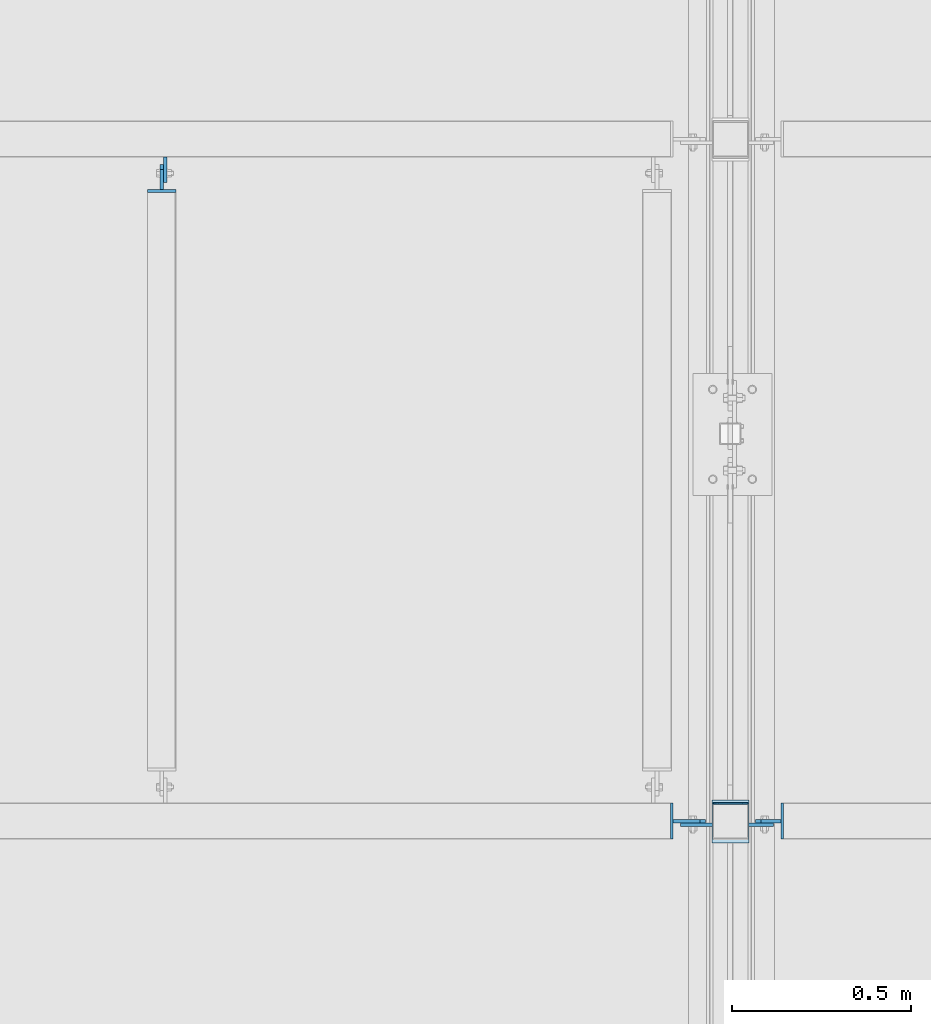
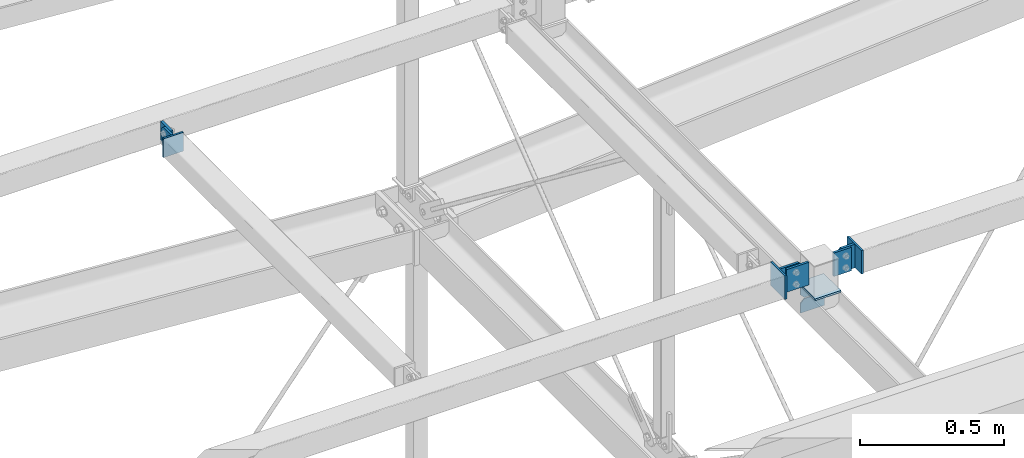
# One storey, part 121 of 271: 12 plates, 5 elements without a shape of their own.
"""IFC2X3 building model written with IfcOpenShell, lengths in millimetres."""

from ifc_helpers import new_model, si_unit, frame, origin_with_axes, place, context, subcontext, project, spatial, polyline, outline, extrude, material, type_object, element, aggregate, save


model = new_model("IFC2X3")

# Units and contexts
model_context = context("Model", 3, precision=1e-05, world=origin_with_axes())
body_context = subcontext(model_context, "Body", "Model", "MODEL_VIEW")
ifc_project = project(units=[si_unit("LENGTHUNIT", "METRE", prefix="MILLI"), si_unit("AREAUNIT", "SQUARE_METRE"), si_unit("VOLUMEUNIT", "CUBIC_METRE"), si_unit("MASSUNIT", "GRAM", prefix="KILO"), si_unit("TIMEUNIT", "SECOND"), si_unit("PLANEANGLEUNIT", "RADIAN"), si_unit("SOLIDANGLEUNIT", "STERADIAN"), si_unit("THERMODYNAMICTEMPERATUREUNIT", "DEGREE_CELSIUS"), si_unit("LUMINOUSINTENSITYUNIT", "LUMEN")], contexts=[model_context])

# Site, building, storey
site_placement = place(None, origin_with_axes())
site = spatial("IfcSite", under=ifc_project, at=site_placement, Name="Undefined", CompositionType="ELEMENT")
building_placement = place(site_placement, origin_with_axes())
building = spatial("IfcBuilding", under=site, at=building_placement, Name="Undefined", CompositionType="ELEMENT")
storey_placement = place(building_placement, origin_with_axes())
storey = spatial("IfcBuildingStorey", under=building, at=storey_placement, Name="Undefined", CompositionType="ELEMENT", Elevation=0.0)

# Assembly, plate
assembly_1_placement = place(storey_placement, origin_with_axes())
assembly_1 = element("IfcElementAssembly", 1, at=assembly_1_placement, inside=storey, AssemblyPlace="NOTDEFINED", PredefinedType="RIGID_FRAME")
ifc_material = material(Name="STEEL/S355JR")
plate_type_1 = type_object("IfcPlateType", Name="BL8*100", PredefinedType="NOTDEFINED")
plate_1_placement = place(assembly_1_placement, frame((6492.37568736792, 849.32498425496, 20104.3499999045), z_axis=(-1.0, 0.0, 1.38777878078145e-17), x_axis=(0.0, 0.0, 1.0)))
plate_1 = element("IfcPlate", 2, at=plate_1_placement, type_object=plate_type_1, material=ifc_material, Name="BLACHA", ObjectType="BL8*100", context=body_context, shape_type="SweptSolid", body=[
    extrude(outline(polyline([(0.0, 0.0), (100.0, 0.0), (100.0, 100.0), (1.59161572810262e-12, 100.0), (0.0, 0.0)])), frame((0.0, 0.0, -4.0), z_axis=(0.0, 0.0, 1.0), x_axis=(1.0, 0.0, 0.0)), (0.0, 0.0, 1.0), 8.0),
])

assembly_2_placement = place(storey_placement, origin_with_axes())
assembly_2 = element("IfcElementAssembly", 3, at=assembly_2_placement, inside=storey, AssemblyPlace="NOTDEFINED", PredefinedType="RIGID_FRAME")
plate_2_placement = place(assembly_2_placement, frame((6184.37568736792, 849.32498425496, 20204.3499999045), z_axis=(1.0, 0.0, 0.0), x_axis=(0.0, 0.0, -1.0)))
plate_2 = element("IfcPlate", 4, at=plate_2_placement, type_object=plate_type_1, material=ifc_material, Name="BLACHA", ObjectType="BL8*100", context=body_context, shape_type="SweptSolid", body=[
    extrude(outline(polyline([(0.0, 0.0), (100.0, 0.0), (100.0, 100.0), (1.59161572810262e-12, 100.0), (0.0, 0.0)])), frame((0.0, 0.0, -4.0), z_axis=(0.0, 0.0, 1.0), x_axis=(1.0, 0.0, 0.0)), (0.0, 0.0, 1.0), 8.0),
])

assembly_3_placement = place(storey_placement, origin_with_axes())
assembly_3 = element("IfcElementAssembly", 5, at=assembly_3_placement, inside=storey, AssemblyPlace="NOTDEFINED", PredefinedType="RIGID_FRAME")
plate_type_2 = type_object("IfcPlateType", Name="BL10*70", PredefinedType="NOTDEFINED")
plate_3_placement = place(assembly_3_placement, frame((4763.37568709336, 2714.32498425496, 20204.3499999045), z_axis=(-1.0, 0.0, 1.38777878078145e-17), x_axis=(0.0, 0.707106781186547, -0.707106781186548)))
plate_3 = element("IfcPlate", 6, at=plate_3_placement, type_object=plate_type_2, material=ifc_material, Name="BLACHA", ObjectType="BL10*70", context=body_context, shape_type="SweptSolid", body=[
    extrude(outline(polyline([(0.0, 0.0), (21.2132034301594, 1.09139364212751e-11), (56.5685424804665, 35.3553390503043), (56.568542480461, 56.5685424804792), (17.6776695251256, 95.4594192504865), (-38.890872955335, 38.8908729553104), (0.0, 0.0)])), frame((0.0, 0.0, -5.0), z_axis=(0.0, 0.0, 1.0), x_axis=(1.0, 0.0, 0.0)), (0.0, 0.0, 1.0), 10.0),
])

assembly_4_placement = place(storey_placement, origin_with_axes())
assembly_4 = element("IfcElementAssembly", 7, at=assembly_4_placement, inside=storey, AssemblyPlace="NOTDEFINED", PredefinedType="RIGID_FRAME")
plate_4_placement = place(assembly_4_placement, frame((4773.37568709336, 2749.32498425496, 20204.3499999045), z_axis=(-1.0, 0.0, 1.38777878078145e-17), x_axis=(0.0, 0.0, -1.0)))
plate_4 = element("IfcPlate", 8, at=plate_4_placement, type_object=plate_type_2, material=ifc_material, Name="BLACHA", ObjectType="BL10*70", context=body_context, shape_type="SweptSolid", body=[
    extrude(outline(polyline([(0.0, 0.0), (80.0, 0.0), (80.0, 70.0), (0.0, 70.0), (0.0, 0.0)])), frame((0.0, 0.0, -5.0), z_axis=(0.0, 0.0, 1.0), x_axis=(1.0, 0.0, 0.0)), (0.0, 0.0, 1.0), 10.0),
])
aggregate(assembly_4, [plate_4])

# Plate
plate_5_placement = place(assembly_1_placement, frame((6433.37568736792, 899.32498425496, 20104.3499999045), z_axis=(0.0, 1.0, 0.0), x_axis=(-0.707106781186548, 0.0, 0.707106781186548)))
plate_5 = element("IfcPlate", 9, at=plate_5_placement, type_object=plate_type_2, material=ifc_material, Name="BLACHA", ObjectType="BL10*70", context=body_context, shape_type="SweptSolid", body=[
    extrude(outline(polyline([(0.0, 0.0), (21.2132034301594, 1.09139364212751e-11), (70.7106781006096, 49.4974746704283), (70.7106781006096, 70.7106781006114), (31.8198051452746, 109.601554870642), (-38.890872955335, 38.8908729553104), (0.0, 0.0)])), frame((0.0, 0.0, -5.0), z_axis=(0.0, 0.0, 1.0), x_axis=(1.0, 0.0, 0.0)), (0.0, 0.0, 1.0), 10.0),
])

aggregate(assembly_1, [plate_1, plate_5])

# Assembly, plates
assembly_5_placement = place(storey_placement, origin_with_axes())
assembly_5 = element("IfcElementAssembly", 10, at=assembly_5_placement, inside=storey, AssemblyPlace="NOTDEFINED", PredefinedType="RIGID_FRAME")
plate_6_placement = place(assembly_5_placement, frame((6398.37568736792, 889.32498425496, 20104.3499999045), z_axis=(0.0, 1.0, 0.0), x_axis=(0.0, 0.0, 1.0)))
plate_6 = element("IfcPlate", 11, at=plate_6_placement, type_object=plate_type_2, material=ifc_material, Name="BLACHA", ObjectType="BL10*70", context=body_context, shape_type="SweptSolid", body=[
    extrude(outline(polyline([(0.0, 0.0), (100.0, 0.0), (100.0, 70.0), (0.0, 70.0), (0.0, 0.0)])), frame((0.0, 0.0, -5.0), z_axis=(0.0, 0.0, 1.0), x_axis=(1.0, 0.0, 0.0)), (0.0, 0.0, 1.0), 10.0),
])
plate_type_3 = type_object("IfcPlateType", Name="BL8*104", PredefinedType="NOTDEFINED")
plate_7_placement = place(assembly_5_placement, frame((6400.37568736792, 958.924398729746, 20068.3499999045), z_axis=(0.0, 0.0, 1.0), x_axis=(-1.0, 0.0, 1.38777878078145e-17)))
plate_7 = element("IfcPlate", 12, at=plate_7_placement, type_object=plate_type_3, material=ifc_material, Name="BLACHA", ObjectType="BL8*104", context=body_context, shape_type="SweptSolid", body=[
    extrude(outline(polyline([(0.0, 0.0), (104.0, 0.0), (104.0, 120.0), (0.0, 120.0), (0.0, 0.0)])), frame((0.0, 0.0, -4.0), z_axis=(0.0, 0.0, 1.0), x_axis=(1.0, 0.0, 0.0)), (0.0, 0.0, 1.0), 8.0),
])

# Plate
plate_type_4 = type_object("IfcPlateType", Name="BL8*80", PredefinedType="NOTDEFINED")
plate_8_placement = place(assembly_3_placement, frame((4803.37568709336, 2655.32498425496, 20204.3499999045), z_axis=(0.0, 1.0, 0.0), x_axis=(0.0, 0.0, -1.0)))
plate_8 = element("IfcPlate", 13, at=plate_8_placement, type_object=plate_type_4, material=ifc_material, Name="BLACHA", ObjectType="BL8*80", context=body_context, shape_type="SweptSolid", body=[
    extrude(outline(polyline([(0.0, 0.0), (80.0, 0.0), (80.0, 80.0), (0.0, 80.0), (0.0, 0.0)])), frame((0.0, 0.0, -4.0), z_axis=(0.0, 0.0, 1.0), x_axis=(1.0, 0.0, 0.0)), (0.0, 0.0, 1.0), 8.0),
])

aggregate(assembly_3, [plate_8, plate_3])

plate_type_5 = type_object("IfcPlateType", Name="BL4*57", PredefinedType="NOTDEFINED")
plate_9_placement = place(assembly_5_placement, frame((6300.37568709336, 948.924398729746, 19945.3499999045), z_axis=(0.0, 1.0, 0.0), x_axis=(0.0, 0.0, 1.0)))
plate_9 = element("IfcPlate", 14, at=plate_9_placement, type_object=plate_type_5, material=ifc_material, Name="BLACHA", ObjectType="BL4*57", context=body_context, shape_type="SweptSolid", body=[
    extrude(outline(polyline([(0.0, 0.0), (41.5, 0.0), (56.5, 15.0), (56.5, 81.0), (41.5, 96.0), (0.0, 96.0), (0.0, 0.0)])), frame((0.0, 0.0, -2.0), z_axis=(0.0, 0.0, 1.0), x_axis=(1.0, 0.0, 0.0)), (0.0, 0.0, 1.0), 4.0),
])

plate_10_placement = place(assembly_5_placement, frame((6300.37568709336, 948.924398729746, 20006.8499999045), z_axis=(0.0, 1.0, 0.0), x_axis=(0.0, 0.0, 1.0)))
plate_10 = element("IfcPlate", 15, at=plate_10_placement, type_object=plate_type_5, material=ifc_material, Name="BLACHA", ObjectType="BL4*57", context=body_context, shape_type="SweptSolid", body=[
    extrude(outline(polyline([(0.0, 15.0), (15.0, -1.59872115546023e-14), (56.5, -1.77635683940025e-14), (56.5, 96.0000000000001), (15.0, 96.0000000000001), (0.0, 81.0000000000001), (0.0, 15.0)])), frame((0.0, 0.0, -2.0), z_axis=(0.0, 0.0, 1.0), x_axis=(1.0, 0.0, 0.0)), (0.0, 0.0, 1.0), 4.0),
])

plate_type_6 = type_object("IfcPlateType", Name="BL10*90", PredefinedType="NOTDEFINED")
plate_11_placement = place(assembly_2_placement, frame((6263.37568736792, 899.32498425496, 20204.3499999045), z_axis=(0.0, 1.0, 0.0), x_axis=(0.70710678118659, 0.0, -0.707106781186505)))
plate_11 = element("IfcPlate", 16, at=plate_11_placement, type_object=plate_type_6, material=ifc_material, Name="BLACHA", ObjectType="BL10*90", context=body_context, shape_type="SweptSolid", body=[
    extrude(outline(polyline([(0.0, 0.0), (21.2132034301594, 1.09139364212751e-11), (70.7106781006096, 49.4974746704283), (70.7106781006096, 70.7106781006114), (17.6776695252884, 123.743690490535), (-53.033008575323, 53.0330085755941), (0.0, 0.0)])), frame((0.0, 0.0, -5.0), z_axis=(0.0, 0.0, 1.0), x_axis=(1.0, 0.0, 0.0)), (0.0, 0.0, 1.0), 10.0),
])

aggregate(assembly_2, [plate_2, plate_11])

plate_12_placement = place(assembly_5_placement, frame((6298.37568736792, 889.32498425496, 20200.3499999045), z_axis=(0.0, 1.0, 0.0), x_axis=(0.0, 0.0, -1.0)))
plate_12 = element("IfcPlate", 17, at=plate_12_placement, type_object=plate_type_6, material=ifc_material, Name="BLACHA", ObjectType="BL10*90", context=body_context, shape_type="SweptSolid", body=[
    extrude(outline(polyline([(0.0, 0.0), (96.0, 0.0), (96.0, 90.0), (0.0, 90.0), (0.0, 0.0)])), frame((0.0, 0.0, -5.0), z_axis=(0.0, 0.0, 1.0), x_axis=(1.0, 0.0, 0.0)), (0.0, 0.0, 1.0), 10.0),
])

aggregate(assembly_5, [plate_9, plate_10, plate_7, plate_6, plate_12])

save(model, "model.ifc")
